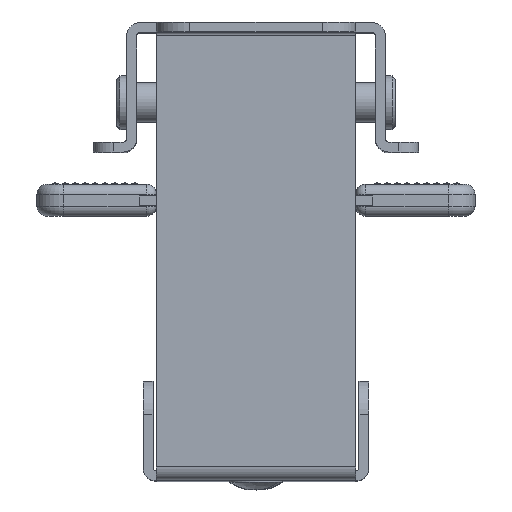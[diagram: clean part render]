
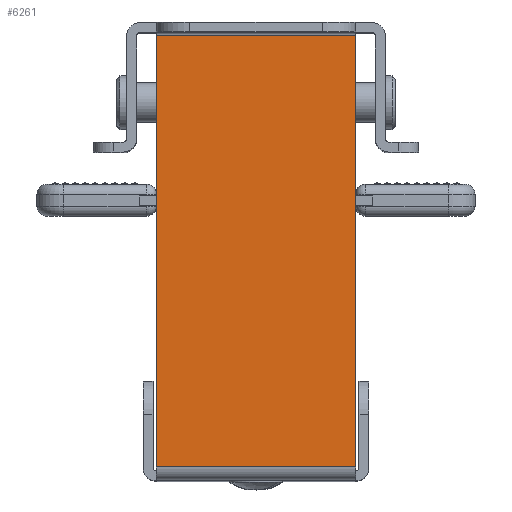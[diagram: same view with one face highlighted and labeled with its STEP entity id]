
A CAD part, top view. The second image highlights one B-rep face of the part: STEP entity #6261.
In plain terms, the highlighted planar face has unit normal (0, 0, 1) as drawn and (1, 0, 0) by its records, which use the part's own axes.
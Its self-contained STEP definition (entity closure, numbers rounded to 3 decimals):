
#1484 = ORIENTED_EDGE ( 'NONE', *, *, #13086, .T. ) ;
#2024 = FACE_OUTER_BOUND ( 'NONE', #20970, .T. ) ;
#2125 = CARTESIAN_POINT ( 'NONE',  ( 76.5, -67., 15. ) ) ;
#2612 = CARTESIAN_POINT ( 'NONE',  ( 76.5, -2., 15. ) ) ;
#2959 = LINE ( 'NONE', #18052, #4489 ) ;
#4279 = EDGE_CURVE ( 'NONE', #14049, #20297, #4697, .T. ) ;
#4489 = VECTOR ( 'NONE', #16702, 1000. ) ;
#4569 = DIRECTION ( 'NONE',  ( 0., 1., 0. ) ) ;
#4633 = AXIS2_PLACEMENT_3D ( 'NONE', #2125, #7056, #7255 ) ;
#4697 = LINE ( 'NONE', #13276, #21108 ) ;
#4882 = CARTESIAN_POINT ( 'NONE',  ( 76.5, -67., 15. ) ) ;
#4966 = ORIENTED_EDGE ( 'NONE', *, *, #21887, .F. ) ;
#6261 = ADVANCED_FACE ( 'NONE', ( #2024 ), #17427, .F. ) ;
#6402 = CARTESIAN_POINT ( 'NONE',  ( 76.5, -67., -15. ) ) ;
#6565 = ORIENTED_EDGE ( 'NONE', *, *, #4279, .F. ) ;
#6764 = ORIENTED_EDGE ( 'NONE', *, *, #13875, .T. ) ;
#7056 = DIRECTION ( 'NONE',  ( -1., 0., 0. ) ) ;
#7255 = DIRECTION ( 'NONE',  ( 0., -1., 0. ) ) ;
#9659 = CARTESIAN_POINT ( 'NONE',  ( 76.5, -2., -15. ) ) ;
#9765 = VECTOR ( 'NONE', #13132, 1000. ) ;
#9926 = CARTESIAN_POINT ( 'NONE',  ( 76.5, -67., -15. ) ) ;
#9959 = VERTEX_POINT ( 'NONE', #6402 ) ;
#13086 = EDGE_CURVE ( 'NONE', #14049, #9959, #15018, .T. ) ;
#13132 = DIRECTION ( 'NONE',  ( 0., 0., -1. ) ) ;
#13276 = CARTESIAN_POINT ( 'NONE',  ( 76.5, -67., 15. ) ) ;
#13875 = EDGE_CURVE ( 'NONE', #9959, #14177, #19873, .T. ) ;
#14049 = VERTEX_POINT ( 'NONE', #20966 ) ;
#14083 = VECTOR ( 'NONE', #4569, 1000. ) ;
#14177 = VERTEX_POINT ( 'NONE', #9659 ) ;
#15018 = LINE ( 'NONE', #4882, #9765 ) ;
#16702 = DIRECTION ( 'NONE',  ( 0., 0., -1. ) ) ;
#17427 = PLANE ( 'NONE',  #4633 ) ;
#18052 = CARTESIAN_POINT ( 'NONE',  ( 76.5, -2., 15. ) ) ;
#19873 = LINE ( 'NONE', #9926, #14083 ) ;
#20100 = DIRECTION ( 'NONE',  ( 0., 1., 0. ) ) ;
#20297 = VERTEX_POINT ( 'NONE', #2612 ) ;
#20966 = CARTESIAN_POINT ( 'NONE',  ( 76.5, -67., 15. ) ) ;
#20970 = EDGE_LOOP ( 'NONE', ( #6764, #4966, #6565, #1484 ) ) ;
#21108 = VECTOR ( 'NONE', #20100, 1000. ) ;
#21887 = EDGE_CURVE ( 'NONE', #20297, #14177, #2959, .T. ) ;
